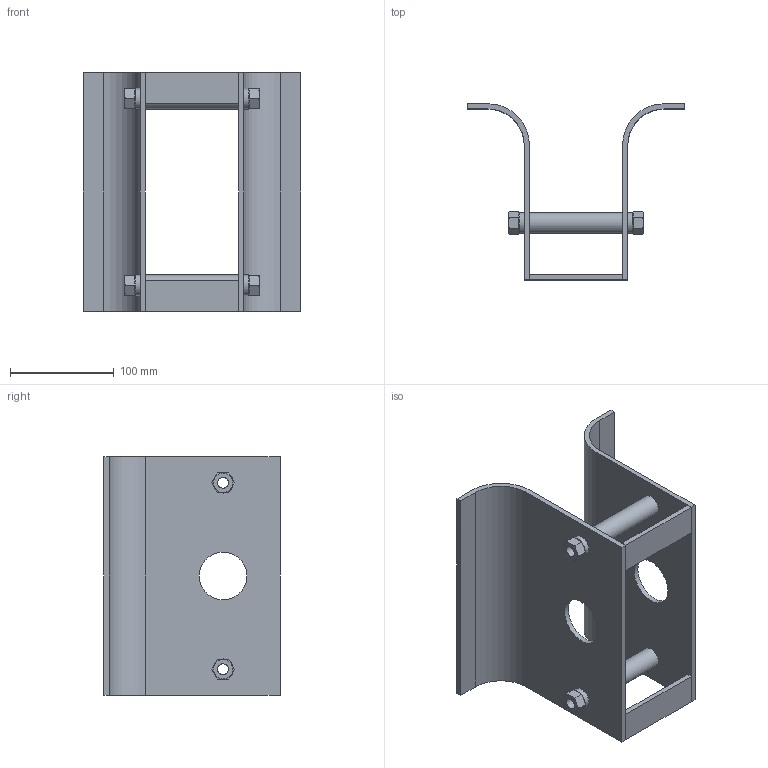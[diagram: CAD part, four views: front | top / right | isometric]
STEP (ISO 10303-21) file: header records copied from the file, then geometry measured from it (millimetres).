
FILE_DESCRIPTION(/* description */ (''),/* implementation_level */ '2;1');
FILE_NAME(/* name */ '2020TOMO-TELAIO-ASSY.00_v12-Part_16.stp',/* time_stamp */ '2022-05-16T13:38:34+02:00',/* author */ (''),/* organization */ (''),/* preprocessor_version */ 'ST-DEVELOPER v18.102',/* originating_system */ 'SIEMENS PLM Software NX 2000',/* authorisation */ '');
FILE_SCHEMA (('AUTOMOTIVE_DESIGN { 1 0 10303 214 3 1 1 1 }'));
Length unit declared in the file: millimetre
Products named in the file (1): turc3144724Fyy8n
Bounding box: 210 x 170 x 230 mm (x, y, z)
Volume: 528770 mm3; surface area: 237529 mm2
Topology: 10 solids, 10 shells, 90 faces, 210 edges, 140 vertices
Faces by surface type: plane 64, cylinder 18, cone 8
Full cylindrical faces by diameter (mm): 10.579 x4, 14 x2, 20 x6, 46 x2
Entity records: 2551 total; most frequent: CARTESIAN_POINT 547, ORIENTED_EDGE 360, DIRECTION 358, EDGE_CURVE 180, EDGE_LOOP 136, AXIS2_PLACEMENT_3D 135, VERTEX_POINT 132, ADVANCED_FACE 90
